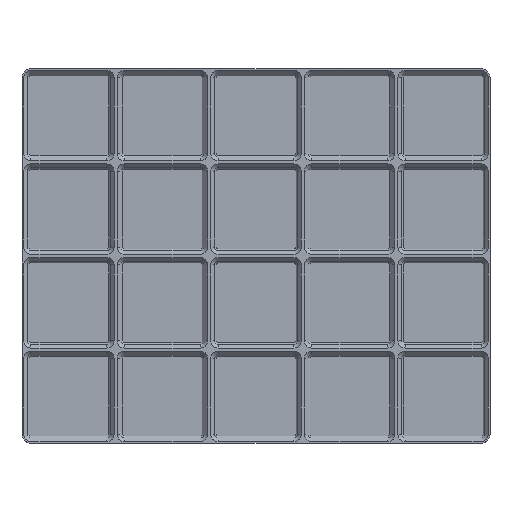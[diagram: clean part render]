
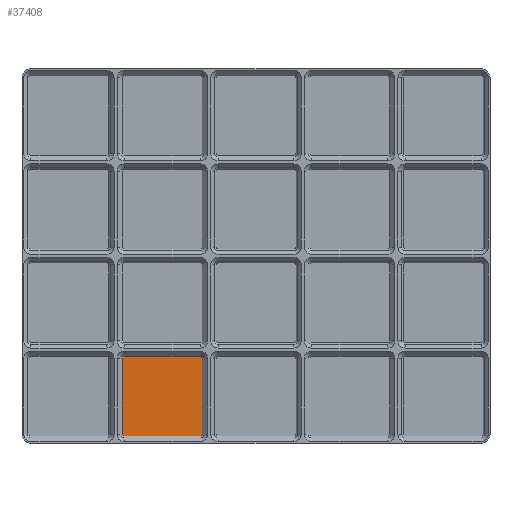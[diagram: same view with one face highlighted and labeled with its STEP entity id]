
A CAD part, top view. The second image highlights one B-rep face of the part: STEP entity #37408.
In plain terms, the highlighted planar face has unit normal (0, 0, 1).
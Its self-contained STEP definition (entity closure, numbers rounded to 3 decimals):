
#22051 = PLANE('',#22052);
#22052 = AXIS2_PLACEMENT_3D('',#22053,#22054,#22055);
#22053 = CARTESIAN_POINT('',(-60.75,-63.,1.5));
#22054 = DIRECTION('',(-0.707,0.,-0.707));
#22055 = DIRECTION('',(0.,-1.,-0.));
#22120 = CONICAL_SURFACE('',#22121,0.95,0.785);
#22121 = AXIS2_PLACEMENT_3D('',#22122,#22123,#22124);
#22122 = CARTESIAN_POINT('',(-59.,-80.,0.7));
#22123 = DIRECTION('',(0.,0.,1.));
#22124 = DIRECTION('',(1.,0.,0.));
#22171 = PLANE('',#22172);
#22172 = AXIS2_PLACEMENT_3D('',#22173,#22174,#22175);
#22173 = CARTESIAN_POINT('',(-42.,-81.75,1.5));
#22174 = DIRECTION('',(0.,-0.707,-0.707));
#22175 = DIRECTION('',(1.,0.,0.));
#22223 = CONICAL_SURFACE('',#22224,0.95,0.785);
#22224 = AXIS2_PLACEMENT_3D('',#22225,#22226,#22227);
#22225 = CARTESIAN_POINT('',(-25.,-80.,0.7));
#22226 = DIRECTION('',(0.,0.,1.));
#22227 = DIRECTION('',(1.,0.,0.));
#22274 = PLANE('',#22275);
#22275 = AXIS2_PLACEMENT_3D('',#22276,#22277,#22278);
#22276 = CARTESIAN_POINT('',(-23.25,-63.,1.5));
#22277 = DIRECTION('',(0.707,0.,-0.707));
#22278 = DIRECTION('',(0.,1.,0.));
#22326 = CONICAL_SURFACE('',#22327,0.95,0.785);
#22327 = AXIS2_PLACEMENT_3D('',#22328,#22329,#22330);
#22328 = CARTESIAN_POINT('',(-25.,-46.,0.7));
#22329 = DIRECTION('',(0.,0.,1.));
#22330 = DIRECTION('',(1.,0.,0.));
#22377 = PLANE('',#22378);
#22378 = AXIS2_PLACEMENT_3D('',#22379,#22380,#22381);
#22379 = CARTESIAN_POINT('',(-42.,-44.25,1.5));
#22380 = DIRECTION('',(0.,0.707,-0.707));
#22381 = DIRECTION('',(-1.,0.,-0.));
#22427 = CONICAL_SURFACE('',#22428,0.95,0.785);
#22428 = AXIS2_PLACEMENT_3D('',#22429,#22430,#22431);
#22429 = CARTESIAN_POINT('',(-59.,-46.,0.7));
#22430 = DIRECTION('',(0.,0.,1.));
#22431 = DIRECTION('',(1.,0.,0.));
#30238 = EDGE_CURVE('',#30239,#30241,#30243,.T.);
#30239 = VERTEX_POINT('',#30240);
#30240 = CARTESIAN_POINT('',(-59.95,-80.,0.7));
#30241 = VERTEX_POINT('',#30242);
#30242 = CARTESIAN_POINT('',(-59.95,-46.,0.7));
#30243 = SURFACE_CURVE('',#30244,(#30248,#30255),.PCURVE_S1.);
#30244 = LINE('',#30245,#30246);
#30245 = CARTESIAN_POINT('',(-59.95,-63.,0.7));
#30246 = VECTOR('',#30247,1.);
#30247 = DIRECTION('',(0.,1.,0.));
#30248 = PCURVE('',#22051,#30249);
#30249 = DEFINITIONAL_REPRESENTATION('',(#30250),#30254);
#30250 = LINE('',#30251,#30252);
#30251 = CARTESIAN_POINT('',(0.,-1.131));
#30252 = VECTOR('',#30253,1.);
#30253 = DIRECTION('',(-1.,0.));
#30254 = ( GEOMETRIC_REPRESENTATION_CONTEXT(2) 
PARAMETRIC_REPRESENTATION_CONTEXT() REPRESENTATION_CONTEXT('2D SPACE',''
  ) );
#30255 = PCURVE('',#30256,#30261);
#30256 = PLANE('',#30257);
#30257 = AXIS2_PLACEMENT_3D('',#30258,#30259,#30260);
#30258 = CARTESIAN_POINT('',(-59.,-80.,0.7));
#30259 = DIRECTION('',(0.,0.,1.));
#30260 = DIRECTION('',(1.,0.,0.));
#30261 = DEFINITIONAL_REPRESENTATION('',(#30262),#30266);
#30262 = LINE('',#30263,#30264);
#30263 = CARTESIAN_POINT('',(-0.95,17.));
#30264 = VECTOR('',#30265,1.);
#30265 = DIRECTION('',(0.,1.));
#30266 = ( GEOMETRIC_REPRESENTATION_CONTEXT(2) 
PARAMETRIC_REPRESENTATION_CONTEXT() REPRESENTATION_CONTEXT('2D SPACE',''
  ) );
#30308 = EDGE_CURVE('',#30239,#30309,#30311,.T.);
#30309 = VERTEX_POINT('',#30310);
#30310 = CARTESIAN_POINT('',(-59.,-80.95,0.7));
#30311 = SURFACE_CURVE('',#30312,(#30317,#30324),.PCURVE_S1.);
#30312 = CIRCLE('',#30313,0.95);
#30313 = AXIS2_PLACEMENT_3D('',#30314,#30315,#30316);
#30314 = CARTESIAN_POINT('',(-59.,-80.,0.7));
#30315 = DIRECTION('',(0.,0.,1.));
#30316 = DIRECTION('',(1.,0.,0.));
#30317 = PCURVE('',#22120,#30318);
#30318 = DEFINITIONAL_REPRESENTATION('',(#30319),#30323);
#30319 = LINE('',#30320,#30321);
#30320 = CARTESIAN_POINT('',(0.,0.));
#30321 = VECTOR('',#30322,1.);
#30322 = DIRECTION('',(1.,0.));
#30323 = ( GEOMETRIC_REPRESENTATION_CONTEXT(2) 
PARAMETRIC_REPRESENTATION_CONTEXT() REPRESENTATION_CONTEXT('2D SPACE',''
  ) );
#30324 = PCURVE('',#30256,#30325);
#30325 = DEFINITIONAL_REPRESENTATION('',(#30326),#30330);
#30326 = CIRCLE('',#30327,0.95);
#30327 = AXIS2_PLACEMENT_2D('',#30328,#30329);
#30328 = CARTESIAN_POINT('',(0.,0.));
#30329 = DIRECTION('',(1.,0.));
#30330 = ( GEOMETRIC_REPRESENTATION_CONTEXT(2) 
PARAMETRIC_REPRESENTATION_CONTEXT() REPRESENTATION_CONTEXT('2D SPACE',''
  ) );
#30355 = EDGE_CURVE('',#30309,#30356,#30358,.T.);
#30356 = VERTEX_POINT('',#30357);
#30357 = CARTESIAN_POINT('',(-25.,-80.95,0.7));
#30358 = SURFACE_CURVE('',#30359,(#30363,#30370),.PCURVE_S1.);
#30359 = LINE('',#30360,#30361);
#30360 = CARTESIAN_POINT('',(-42.,-80.95,0.7));
#30361 = VECTOR('',#30362,1.);
#30362 = DIRECTION('',(1.,0.,0.));
#30363 = PCURVE('',#22171,#30364);
#30364 = DEFINITIONAL_REPRESENTATION('',(#30365),#30369);
#30365 = LINE('',#30366,#30367);
#30366 = CARTESIAN_POINT('',(0.,-1.131));
#30367 = VECTOR('',#30368,1.);
#30368 = DIRECTION('',(1.,0.));
#30369 = ( GEOMETRIC_REPRESENTATION_CONTEXT(2) 
PARAMETRIC_REPRESENTATION_CONTEXT() REPRESENTATION_CONTEXT('2D SPACE',''
  ) );
#30370 = PCURVE('',#30256,#30371);
#30371 = DEFINITIONAL_REPRESENTATION('',(#30372),#30376);
#30372 = LINE('',#30373,#30374);
#30373 = CARTESIAN_POINT('',(17.,-0.95));
#30374 = VECTOR('',#30375,1.);
#30375 = DIRECTION('',(1.,0.));
#30376 = ( GEOMETRIC_REPRESENTATION_CONTEXT(2) 
PARAMETRIC_REPRESENTATION_CONTEXT() REPRESENTATION_CONTEXT('2D SPACE',''
  ) );
#30401 = EDGE_CURVE('',#30356,#30402,#30404,.T.);
#30402 = VERTEX_POINT('',#30403);
#30403 = CARTESIAN_POINT('',(-24.05,-80.,0.7));
#30404 = SURFACE_CURVE('',#30405,(#30410,#30417),.PCURVE_S1.);
#30405 = CIRCLE('',#30406,0.95);
#30406 = AXIS2_PLACEMENT_3D('',#30407,#30408,#30409);
#30407 = CARTESIAN_POINT('',(-25.,-80.,0.7));
#30408 = DIRECTION('',(0.,0.,1.));
#30409 = DIRECTION('',(1.,0.,0.));
#30410 = PCURVE('',#22223,#30411);
#30411 = DEFINITIONAL_REPRESENTATION('',(#30412),#30416);
#30412 = LINE('',#30413,#30414);
#30413 = CARTESIAN_POINT('',(0.,0.));
#30414 = VECTOR('',#30415,1.);
#30415 = DIRECTION('',(1.,0.));
#30416 = ( GEOMETRIC_REPRESENTATION_CONTEXT(2) 
PARAMETRIC_REPRESENTATION_CONTEXT() REPRESENTATION_CONTEXT('2D SPACE',''
  ) );
#30417 = PCURVE('',#30256,#30418);
#30418 = DEFINITIONAL_REPRESENTATION('',(#30419),#30423);
#30419 = CIRCLE('',#30420,0.95);
#30420 = AXIS2_PLACEMENT_2D('',#30421,#30422);
#30421 = CARTESIAN_POINT('',(34.,0.));
#30422 = DIRECTION('',(1.,0.));
#30423 = ( GEOMETRIC_REPRESENTATION_CONTEXT(2) 
PARAMETRIC_REPRESENTATION_CONTEXT() REPRESENTATION_CONTEXT('2D SPACE',''
  ) );
#30448 = EDGE_CURVE('',#30402,#30449,#30451,.T.);
#30449 = VERTEX_POINT('',#30450);
#30450 = CARTESIAN_POINT('',(-24.05,-46.,0.7));
#30451 = SURFACE_CURVE('',#30452,(#30456,#30463),.PCURVE_S1.);
#30452 = LINE('',#30453,#30454);
#30453 = CARTESIAN_POINT('',(-24.05,-63.,0.7));
#30454 = VECTOR('',#30455,1.);
#30455 = DIRECTION('',(0.,1.,0.));
#30456 = PCURVE('',#22274,#30457);
#30457 = DEFINITIONAL_REPRESENTATION('',(#30458),#30462);
#30458 = LINE('',#30459,#30460);
#30459 = CARTESIAN_POINT('',(0.,-1.131));
#30460 = VECTOR('',#30461,1.);
#30461 = DIRECTION('',(1.,0.));
#30462 = ( GEOMETRIC_REPRESENTATION_CONTEXT(2) 
PARAMETRIC_REPRESENTATION_CONTEXT() REPRESENTATION_CONTEXT('2D SPACE',''
  ) );
#30463 = PCURVE('',#30256,#30464);
#30464 = DEFINITIONAL_REPRESENTATION('',(#30465),#30469);
#30465 = LINE('',#30466,#30467);
#30466 = CARTESIAN_POINT('',(34.95,17.));
#30467 = VECTOR('',#30468,1.);
#30468 = DIRECTION('',(0.,1.));
#30469 = ( GEOMETRIC_REPRESENTATION_CONTEXT(2) 
PARAMETRIC_REPRESENTATION_CONTEXT() REPRESENTATION_CONTEXT('2D SPACE',''
  ) );
#30494 = EDGE_CURVE('',#30449,#30495,#30497,.T.);
#30495 = VERTEX_POINT('',#30496);
#30496 = CARTESIAN_POINT('',(-25.,-45.05,0.7));
#30497 = SURFACE_CURVE('',#30498,(#30503,#30510),.PCURVE_S1.);
#30498 = CIRCLE('',#30499,0.95);
#30499 = AXIS2_PLACEMENT_3D('',#30500,#30501,#30502);
#30500 = CARTESIAN_POINT('',(-25.,-46.,0.7));
#30501 = DIRECTION('',(0.,0.,1.));
#30502 = DIRECTION('',(1.,0.,0.));
#30503 = PCURVE('',#22326,#30504);
#30504 = DEFINITIONAL_REPRESENTATION('',(#30505),#30509);
#30505 = LINE('',#30506,#30507);
#30506 = CARTESIAN_POINT('',(0.,0.));
#30507 = VECTOR('',#30508,1.);
#30508 = DIRECTION('',(1.,0.));
#30509 = ( GEOMETRIC_REPRESENTATION_CONTEXT(2) 
PARAMETRIC_REPRESENTATION_CONTEXT() REPRESENTATION_CONTEXT('2D SPACE',''
  ) );
#30510 = PCURVE('',#30256,#30511);
#30511 = DEFINITIONAL_REPRESENTATION('',(#30512),#30516);
#30512 = CIRCLE('',#30513,0.95);
#30513 = AXIS2_PLACEMENT_2D('',#30514,#30515);
#30514 = CARTESIAN_POINT('',(34.,34.));
#30515 = DIRECTION('',(1.,0.));
#30516 = ( GEOMETRIC_REPRESENTATION_CONTEXT(2) 
PARAMETRIC_REPRESENTATION_CONTEXT() REPRESENTATION_CONTEXT('2D SPACE',''
  ) );
#30541 = EDGE_CURVE('',#30542,#30495,#30544,.T.);
#30542 = VERTEX_POINT('',#30543);
#30543 = CARTESIAN_POINT('',(-59.,-45.05,0.7));
#30544 = SURFACE_CURVE('',#30545,(#30549,#30556),.PCURVE_S1.);
#30545 = LINE('',#30546,#30547);
#30546 = CARTESIAN_POINT('',(-42.,-45.05,0.7));
#30547 = VECTOR('',#30548,1.);
#30548 = DIRECTION('',(1.,0.,0.));
#30549 = PCURVE('',#22377,#30550);
#30550 = DEFINITIONAL_REPRESENTATION('',(#30551),#30555);
#30551 = LINE('',#30552,#30553);
#30552 = CARTESIAN_POINT('',(0.,-1.131));
#30553 = VECTOR('',#30554,1.);
#30554 = DIRECTION('',(-1.,0.));
#30555 = ( GEOMETRIC_REPRESENTATION_CONTEXT(2) 
PARAMETRIC_REPRESENTATION_CONTEXT() REPRESENTATION_CONTEXT('2D SPACE',''
  ) );
#30556 = PCURVE('',#30256,#30557);
#30557 = DEFINITIONAL_REPRESENTATION('',(#30558),#30562);
#30558 = LINE('',#30559,#30560);
#30559 = CARTESIAN_POINT('',(17.,34.95));
#30560 = VECTOR('',#30561,1.);
#30561 = DIRECTION('',(1.,0.));
#30562 = ( GEOMETRIC_REPRESENTATION_CONTEXT(2) 
PARAMETRIC_REPRESENTATION_CONTEXT() REPRESENTATION_CONTEXT('2D SPACE',''
  ) );
#30587 = EDGE_CURVE('',#30542,#30241,#30588,.T.);
#30588 = SURFACE_CURVE('',#30589,(#30594,#30601),.PCURVE_S1.);
#30589 = CIRCLE('',#30590,0.95);
#30590 = AXIS2_PLACEMENT_3D('',#30591,#30592,#30593);
#30591 = CARTESIAN_POINT('',(-59.,-46.,0.7));
#30592 = DIRECTION('',(0.,0.,1.));
#30593 = DIRECTION('',(1.,0.,0.));
#30594 = PCURVE('',#22427,#30595);
#30595 = DEFINITIONAL_REPRESENTATION('',(#30596),#30600);
#30596 = LINE('',#30597,#30598);
#30597 = CARTESIAN_POINT('',(0.,0.));
#30598 = VECTOR('',#30599,1.);
#30599 = DIRECTION('',(1.,0.));
#30600 = ( GEOMETRIC_REPRESENTATION_CONTEXT(2) 
PARAMETRIC_REPRESENTATION_CONTEXT() REPRESENTATION_CONTEXT('2D SPACE',''
  ) );
#30601 = PCURVE('',#30256,#30602);
#30602 = DEFINITIONAL_REPRESENTATION('',(#30603),#30607);
#30603 = CIRCLE('',#30604,0.95);
#30604 = AXIS2_PLACEMENT_2D('',#30605,#30606);
#30605 = CARTESIAN_POINT('',(0.,34.));
#30606 = DIRECTION('',(1.,0.));
#30607 = ( GEOMETRIC_REPRESENTATION_CONTEXT(2) 
PARAMETRIC_REPRESENTATION_CONTEXT() REPRESENTATION_CONTEXT('2D SPACE',''
  ) );
#37408 = ADVANCED_FACE('',(#37409),#30256,.T.);
#37409 = FACE_BOUND('',#37410,.T.);
#37410 = EDGE_LOOP('',(#37411,#37412,#37413,#37414,#37415,#37416,#37417,
    #37418));
#37411 = ORIENTED_EDGE('',*,*,#30238,.F.);
#37412 = ORIENTED_EDGE('',*,*,#30308,.T.);
#37413 = ORIENTED_EDGE('',*,*,#30355,.T.);
#37414 = ORIENTED_EDGE('',*,*,#30401,.T.);
#37415 = ORIENTED_EDGE('',*,*,#30448,.T.);
#37416 = ORIENTED_EDGE('',*,*,#30494,.T.);
#37417 = ORIENTED_EDGE('',*,*,#30541,.F.);
#37418 = ORIENTED_EDGE('',*,*,#30587,.T.);
